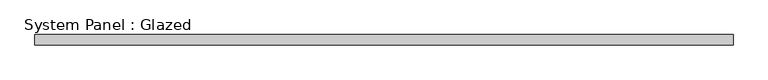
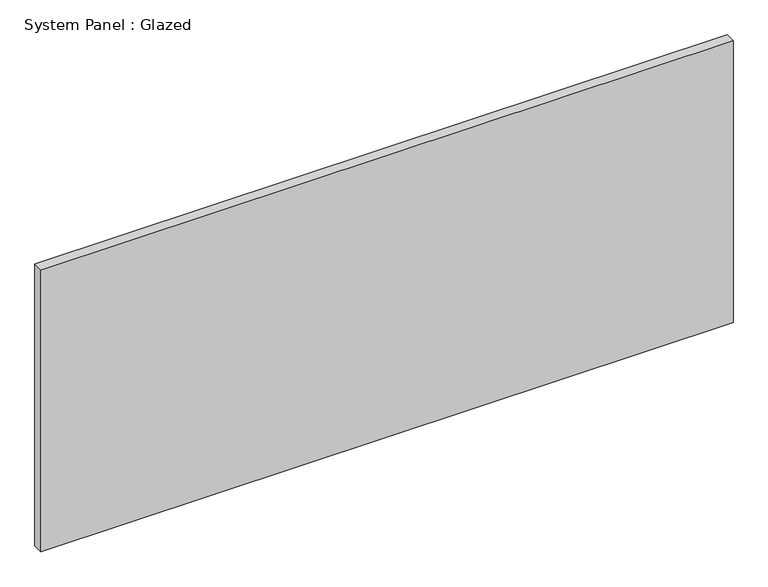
"""IFC4 building model written with IfcOpenShell, lengths in millimetres: plate geometry, System Panel : Glazed."""

from ifc_helpers import new_model, si_unit, origin, origin_with_axes, place, context, project, spatial, polyline, outline, extrude, source, transform, mapped, element, save


def system_panel_glazed_83d74979(model_context):
    return source(origin(), model_context, "Body", "SweptSolid", [
        extrude(outline(polyline([(952.3509533, -14.0), (-952.3509533, -14.0), (-952.3509533, 14.0), (952.3509533, 14.0), (952.3509533, -14.0)])), origin_with_axes(), (0.0, 0.0, 1.0), 820.5),
    ])


if __name__ == "__main__":
    model = new_model("IFC4")
    model_context = context("Model", 3, world=origin())
    ifc_project = project(units=[si_unit("LENGTHUNIT", "METRE", prefix="MILLI")], contexts=[model_context])
    site = spatial("IfcSite", under=ifc_project)
    building = spatial("IfcBuilding", under=site)
    placement = place(None, origin())
    system_panel_glazed_shape = system_panel_glazed_83d74979(model_context)
    element("IfcPlate", 1, ObjectType="System Panel : Glazed", at=placement, inside=building, context=model_context, shape_type="MappedRepresentation", body=[
        mapped(system_panel_glazed_shape, transform((0.0, 0.0, 0.0), x_axis=(1.0, 0.0, 0.0), y_axis=(0.0, 1.0, 0.0), z_axis=(0.0, 0.0, 1.0))),
    ])
    save(model, "model.ifc")
